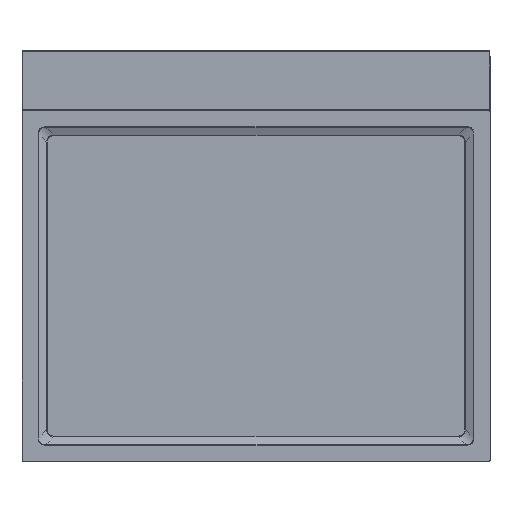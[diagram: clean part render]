
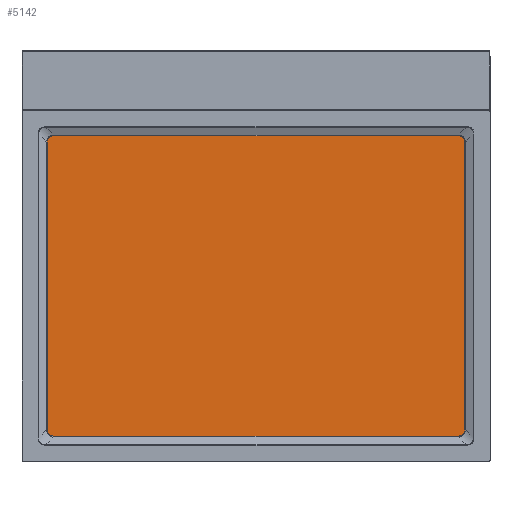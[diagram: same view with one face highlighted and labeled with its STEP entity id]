
A CAD part, top view. The second image highlights one B-rep face of the part: STEP entity #5142.
In plain terms, the highlighted planar face has unit normal (0, 0, 1).
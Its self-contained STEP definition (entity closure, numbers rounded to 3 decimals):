
#5130=AXIS2_PLACEMENT_3D('Plane Axis2P3D',#5127,#5128,#5129) ;
#4618=CARTESIAN_POINT('Control Point',(-254.74,138.88,-1.)) ;
#4619=CARTESIAN_POINT('Control Point',(-254.74,139.428,-1.)) ;
#4620=CARTESIAN_POINT('Control Point',(-254.714,139.975,-1.)) ;
#4621=CARTESIAN_POINT('Control Point',(-254.657,140.519,-1.)) ;
#4622=CARTESIAN_POINT('Control Point',(-254.451,141.723,-1.)) ;
#4623=CARTESIAN_POINT('Control Point',(-254.043,142.867,-1.)) ;
#4624=CARTESIAN_POINT('Control Point',(-253.745,143.472,-1.)) ;
#4625=CARTESIAN_POINT('Control Point',(-253.092,144.435,-1.)) ;
#4626=CARTESIAN_POINT('Control Point',(-252.231,145.206,-1.)) ;
#4627=CARTESIAN_POINT('Control Point',(-251.835,145.492,-1.)) ;
#4628=CARTESIAN_POINT('Control Point',(-250.861,146.058,-1.)) ;
#4629=CARTESIAN_POINT('Control Point',(-249.785,146.418,-1.)) ;
#4630=CARTESIAN_POINT('Control Point',(-249.155,146.562,-1.)) ;
#4631=CARTESIAN_POINT('Control Point',(-248.321,146.683,-1.)) ;
#4632=CARTESIAN_POINT('Control Point',(-247.477,146.73,-1.)) ;
#4633=CARTESIAN_POINT('Control Point',(-247.278,146.737,-1.)) ;
#4634=CARTESIAN_POINT('Control Point',(-247.079,146.74,-1.)) ;
#4635=CARTESIAN_POINT('Control Point',(-246.88,146.74,-1.)) ;
#4636=CARTESIAN_POINT('Vertex',(-254.74,138.88,-1.)) ;
#4638=CARTESIAN_POINT('Vertex',(-246.88,146.74,-1.)) ;
#4665=CARTESIAN_POINT('Line Origine',(0.,146.74,-1.)) ;
#4669=CARTESIAN_POINT('Vertex',(246.88,146.74,-1.)) ;
#4776=CARTESIAN_POINT('Control Point',(246.88,146.74,-1.)) ;
#4777=CARTESIAN_POINT('Control Point',(247.428,146.74,-1.)) ;
#4778=CARTESIAN_POINT('Control Point',(247.975,146.714,-1.)) ;
#4779=CARTESIAN_POINT('Control Point',(248.519,146.657,-1.)) ;
#4780=CARTESIAN_POINT('Control Point',(249.723,146.451,-1.)) ;
#4781=CARTESIAN_POINT('Control Point',(250.867,146.043,-1.)) ;
#4782=CARTESIAN_POINT('Control Point',(251.472,145.745,-1.)) ;
#4783=CARTESIAN_POINT('Control Point',(252.435,145.092,-1.)) ;
#4784=CARTESIAN_POINT('Control Point',(253.206,144.231,-1.)) ;
#4785=CARTESIAN_POINT('Control Point',(253.492,143.835,-1.)) ;
#4786=CARTESIAN_POINT('Control Point',(254.058,142.861,-1.)) ;
#4787=CARTESIAN_POINT('Control Point',(254.418,141.785,-1.)) ;
#4788=CARTESIAN_POINT('Control Point',(254.562,141.155,-1.)) ;
#4789=CARTESIAN_POINT('Control Point',(254.683,140.321,-1.)) ;
#4790=CARTESIAN_POINT('Control Point',(254.73,139.477,-1.)) ;
#4791=CARTESIAN_POINT('Control Point',(254.737,139.278,-1.)) ;
#4792=CARTESIAN_POINT('Control Point',(254.74,139.079,-1.)) ;
#4793=CARTESIAN_POINT('Control Point',(254.74,138.88,-1.)) ;
#4794=CARTESIAN_POINT('Vertex',(254.74,138.88,-1.)) ;
#4815=CARTESIAN_POINT('Line Origine',(254.74,-36.5,-1.)) ;
#4819=CARTESIAN_POINT('Vertex',(254.74,-211.88,-1.)) ;
#4926=CARTESIAN_POINT('Control Point',(254.74,-211.88,-1.)) ;
#4927=CARTESIAN_POINT('Control Point',(254.74,-212.428,-1.)) ;
#4928=CARTESIAN_POINT('Control Point',(254.714,-212.975,-1.)) ;
#4929=CARTESIAN_POINT('Control Point',(254.657,-213.519,-1.)) ;
#4930=CARTESIAN_POINT('Control Point',(254.451,-214.723,-1.)) ;
#4931=CARTESIAN_POINT('Control Point',(254.043,-215.867,-1.)) ;
#4932=CARTESIAN_POINT('Control Point',(253.745,-216.472,-1.)) ;
#4933=CARTESIAN_POINT('Control Point',(253.092,-217.435,-1.)) ;
#4934=CARTESIAN_POINT('Control Point',(252.231,-218.206,-1.)) ;
#4935=CARTESIAN_POINT('Control Point',(251.835,-218.492,-1.)) ;
#4936=CARTESIAN_POINT('Control Point',(250.861,-219.058,-1.)) ;
#4937=CARTESIAN_POINT('Control Point',(249.785,-219.418,-1.)) ;
#4938=CARTESIAN_POINT('Control Point',(249.155,-219.562,-1.)) ;
#4939=CARTESIAN_POINT('Control Point',(248.321,-219.683,-1.)) ;
#4940=CARTESIAN_POINT('Control Point',(247.477,-219.73,-1.)) ;
#4941=CARTESIAN_POINT('Control Point',(247.278,-219.737,-1.)) ;
#4942=CARTESIAN_POINT('Control Point',(247.079,-219.74,-1.)) ;
#4943=CARTESIAN_POINT('Control Point',(246.88,-219.74,-1.)) ;
#4944=CARTESIAN_POINT('Vertex',(246.88,-219.74,-1.)) ;
#4965=CARTESIAN_POINT('Line Origine',(0.,-219.74,-1.)) ;
#4969=CARTESIAN_POINT('Vertex',(-246.88,-219.74,-1.)) ;
#5076=CARTESIAN_POINT('Control Point',(-246.88,-219.74,-1.)) ;
#5077=CARTESIAN_POINT('Control Point',(-247.428,-219.74,-1.)) ;
#5078=CARTESIAN_POINT('Control Point',(-247.975,-219.714,-1.)) ;
#5079=CARTESIAN_POINT('Control Point',(-248.519,-219.657,-1.)) ;
#5080=CARTESIAN_POINT('Control Point',(-249.723,-219.451,-1.)) ;
#5081=CARTESIAN_POINT('Control Point',(-250.867,-219.043,-1.)) ;
#5082=CARTESIAN_POINT('Control Point',(-251.472,-218.745,-1.)) ;
#5083=CARTESIAN_POINT('Control Point',(-252.435,-218.092,-1.)) ;
#5084=CARTESIAN_POINT('Control Point',(-253.206,-217.231,-1.)) ;
#5085=CARTESIAN_POINT('Control Point',(-253.492,-216.835,-1.)) ;
#5086=CARTESIAN_POINT('Control Point',(-254.058,-215.861,-1.)) ;
#5087=CARTESIAN_POINT('Control Point',(-254.418,-214.785,-1.)) ;
#5088=CARTESIAN_POINT('Control Point',(-254.562,-214.155,-1.)) ;
#5089=CARTESIAN_POINT('Control Point',(-254.683,-213.321,-1.)) ;
#5090=CARTESIAN_POINT('Control Point',(-254.73,-212.477,-1.)) ;
#5091=CARTESIAN_POINT('Control Point',(-254.737,-212.278,-1.)) ;
#5092=CARTESIAN_POINT('Control Point',(-254.74,-212.079,-1.)) ;
#5093=CARTESIAN_POINT('Control Point',(-254.74,-211.88,-1.)) ;
#5094=CARTESIAN_POINT('Vertex',(-254.74,-211.88,-1.)) ;
#5115=CARTESIAN_POINT('Line Origine',(-254.74,-36.5,-1.)) ;
#5127=CARTESIAN_POINT('Axis2P3D Location',(0.,0.,-1.)) ;
#4666=DIRECTION('Vector Direction',(1.,0.,0.)) ;
#4816=DIRECTION('Vector Direction',(0.,1.,0.)) ;
#4966=DIRECTION('Vector Direction',(-1.,0.,0.)) ;
#5116=DIRECTION('Vector Direction',(0.,-1.,0.)) ;
#5128=DIRECTION('Axis2P3D Direction',(0.,0.,1.)) ;
#5129=DIRECTION('Axis2P3D XDirection',(1.,0.,0.)) ;
#4667=VECTOR('Line Direction',#4666,1.) ;
#4817=VECTOR('Line Direction',#4816,1.) ;
#4967=VECTOR('Line Direction',#4966,1.) ;
#5117=VECTOR('Line Direction',#5116,1.) ;
#5133=ORIENTED_EDGE('',*,*,#5096,.F.) ;
#5134=ORIENTED_EDGE('',*,*,#4971,.F.) ;
#5135=ORIENTED_EDGE('',*,*,#4946,.F.) ;
#5136=ORIENTED_EDGE('',*,*,#4821,.F.) ;
#5137=ORIENTED_EDGE('',*,*,#4796,.F.) ;
#5138=ORIENTED_EDGE('',*,*,#4671,.F.) ;
#5139=ORIENTED_EDGE('',*,*,#4640,.F.) ;
#5140=ORIENTED_EDGE('',*,*,#5119,.F.) ;
#5142=ADVANCED_FACE('Grillplatte',(#5141),#5131,.T.) ;
#4617=B_SPLINE_CURVE_WITH_KNOTS('',5,(#4618,#4619,#4620,#4621,#4622,#4623,#4624,#4625,#4626,#4627,#4628,#4629,#4630,#4631,#4632,#4633,#4634,#4635),.UNSPECIFIED.,.F.,.U.,(6,3,3,3,3,6),(167.03,171.023,175.989,179.622,184.346,185.801),.UNSPECIFIED.) ;
#4775=B_SPLINE_CURVE_WITH_KNOTS('',5,(#4776,#4777,#4778,#4779,#4780,#4781,#4782,#4783,#4784,#4785,#4786,#4787,#4788,#4789,#4790,#4791,#4792,#4793),.UNSPECIFIED.,.F.,.U.,(6,3,3,3,3,6),(167.03,171.023,175.989,179.622,184.346,185.801),.UNSPECIFIED.) ;
#4925=B_SPLINE_CURVE_WITH_KNOTS('',5,(#4926,#4927,#4928,#4929,#4930,#4931,#4932,#4933,#4934,#4935,#4936,#4937,#4938,#4939,#4940,#4941,#4942,#4943),.UNSPECIFIED.,.F.,.U.,(6,3,3,3,3,6),(167.03,171.023,175.989,179.622,184.346,185.801),.UNSPECIFIED.) ;
#5075=B_SPLINE_CURVE_WITH_KNOTS('',5,(#5076,#5077,#5078,#5079,#5080,#5081,#5082,#5083,#5084,#5085,#5086,#5087,#5088,#5089,#5090,#5091,#5092,#5093),.UNSPECIFIED.,.F.,.U.,(6,3,3,3,3,6),(167.03,171.023,175.989,179.622,184.346,185.801),.UNSPECIFIED.) ;
#4640=EDGE_CURVE('',#4637,#4639,#4617,.T.) ;
#4671=EDGE_CURVE('',#4639,#4670,#4668,.T.) ;
#4796=EDGE_CURVE('',#4670,#4795,#4775,.T.) ;
#4821=EDGE_CURVE('',#4795,#4820,#4818,.F.) ;
#4946=EDGE_CURVE('',#4820,#4945,#4925,.T.) ;
#4971=EDGE_CURVE('',#4945,#4970,#4968,.T.) ;
#5096=EDGE_CURVE('',#4970,#5095,#5075,.T.) ;
#5119=EDGE_CURVE('',#5095,#4637,#5118,.F.) ;
#5132=EDGE_LOOP('',(#5133,#5134,#5135,#5136,#5137,#5138,#5139,#5140)) ;
#5141=FACE_OUTER_BOUND('',#5132,.T.) ;
#4668=LINE('Line',#4665,#4667) ;
#4818=LINE('Line',#4815,#4817) ;
#4968=LINE('Line',#4965,#4967) ;
#5118=LINE('Line',#5115,#5117) ;
#5131=PLANE('',#5130) ;
#4637=VERTEX_POINT('',#4636) ;
#4639=VERTEX_POINT('',#4638) ;
#4670=VERTEX_POINT('',#4669) ;
#4795=VERTEX_POINT('',#4794) ;
#4820=VERTEX_POINT('',#4819) ;
#4945=VERTEX_POINT('',#4944) ;
#4970=VERTEX_POINT('',#4969) ;
#5095=VERTEX_POINT('',#5094) ;
